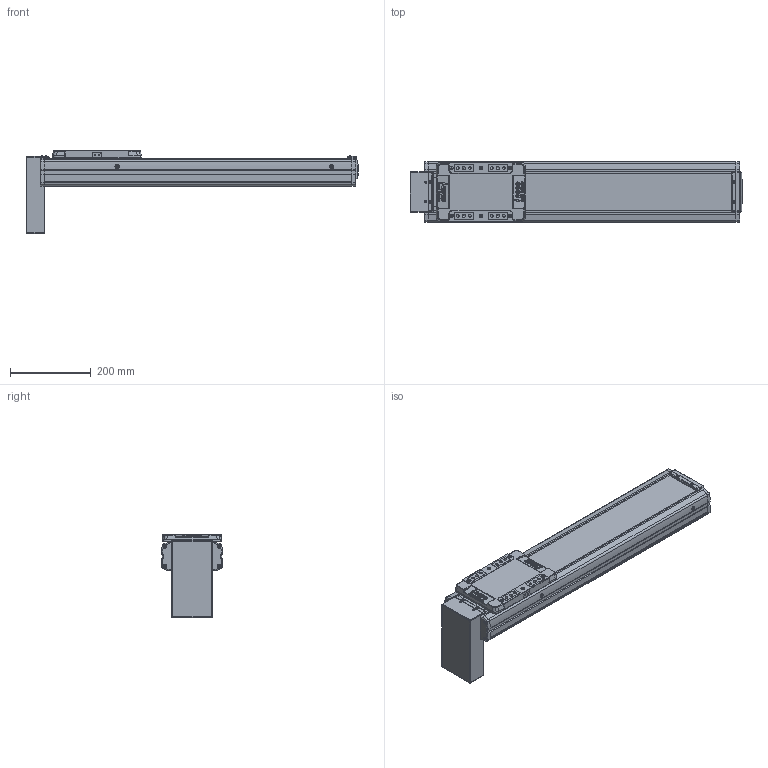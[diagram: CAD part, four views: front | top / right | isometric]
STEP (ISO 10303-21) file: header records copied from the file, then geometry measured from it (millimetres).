
FILE_DESCRIPTION(('STEP AP214'),'1');
FILE_NAME('Z:/Web/3D/SAN150/2013.04 (STP.)/SAN150ㅁㅁ-500PB.stp','2013-05-07T11:30:17',(' '),(' '),'Spatial InterOp 3D',' ',' ');
FILE_SCHEMA(('automotive_design'));
Length unit declared in the file: millimetre
Products named in the file (40): SLBL-SAN150; SLCV-SAN150; FHCS M4.0 x 8.0; BHCS M4.0 x 10.0; SFX-SAN150; RRCV-SAN150; FRBL-SAN150; Spacer; RN15; FRCV-SAN150; Screw 20; BASE-SAN150-000L ; SUS COVER; 스크루 : Round - M5.0 x 6.0; PB; 스크루 : Round - M3.0 x 6.0
Bounding box: 820 x 150 x 205.4 mm (x, y, z)
Volume: 5373858 mm3; surface area: 922686.4 mm2
Topology: 40 solids, 40 shells, 2121 faces, 5445 edges, 3474 vertices
Faces by surface type: plane 1033, cylinder 753, cone 242, sphere 60, bspline 21, torus 12
Entity records: 84040 total; most frequent: CARTESIAN_POINT 13658, DIRECTION 11568, ORIENTED_EDGE 10674, EDGE_CURVE 5337, AXIS2_PLACEMENT_3D 4171, VERTEX_POINT 3474, LINE 3226, VECTOR 3226
